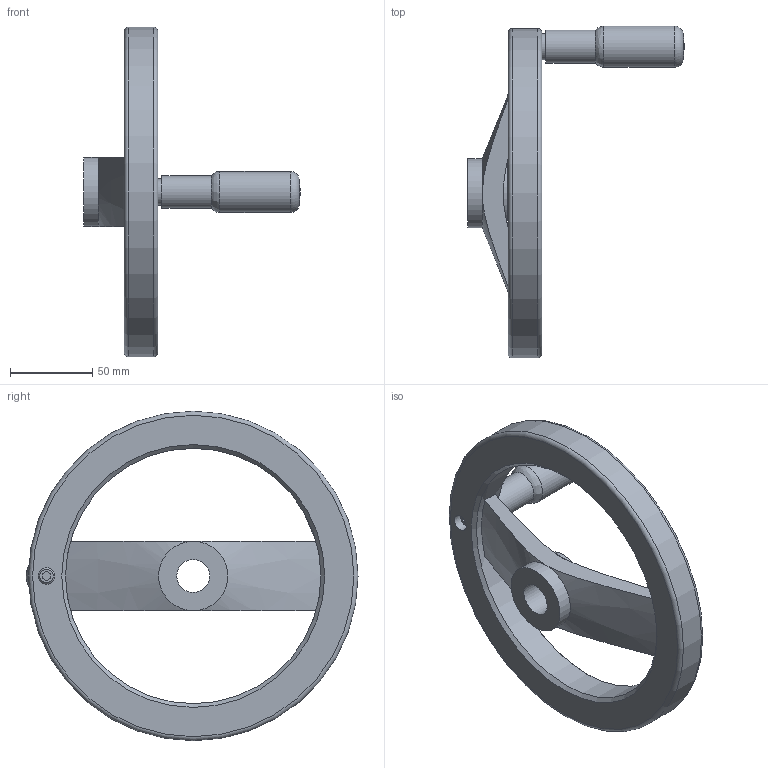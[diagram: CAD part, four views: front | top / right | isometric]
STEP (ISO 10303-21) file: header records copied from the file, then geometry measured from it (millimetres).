
FILE_DESCRIPTION( ( 'STEP AP203' ), '1' );
FILE_NAME( 'C:/Temp/Ganter_Step_05_03_2020/data/1_3/gn_324/gn_324_b/gn_324_b_d/Handwheel, matt black GN 324-200-B20-R.stp', '2020-03-05T10:32:58', ( 'License CC BY-ND 4.0' ), ( 'CADENAS' ), ' ', 'PARTsolutions', ' ' );
FILE_SCHEMA( ( 'CONFIG_CONTROL_DESIGN' ) );
Length unit declared in the file: millimetre
Products named in the file (1): _Handwheel, matt black GN 324-200-B20-R
Bounding box: 131.5 x 201.5 x 200 mm (x, y, z)
Volume: 369472.8 mm3; surface area: 71013.1 mm2
Topology: 1 solids, 2 shells, 40 faces, 86 edges, 52 vertices
Faces by surface type: plane 16, cylinder 11, cone 8, torus 3, bspline 1, sphere 1
Full cylindrical faces by diameter (mm): 8.14 x1, 10 x2, 16 x1, 20 x2, 25 x1, 42 x2, 155 x1, 200 x1
Entity records: 1179 total; most frequent: CARTESIAN_POINT 335, DIRECTION 170, ORIENTED_EDGE 128, AXIS2_PLACEMENT_3D 74, EDGE_LOOP 70, EDGE_CURVE 64, FACE_OUTER_BOUND 55, VERTEX_POINT 51
